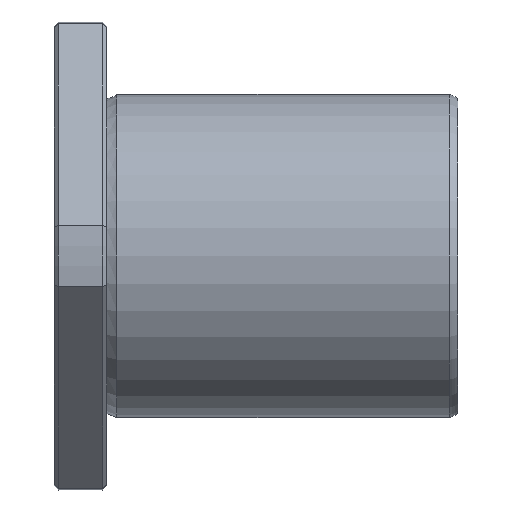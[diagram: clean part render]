
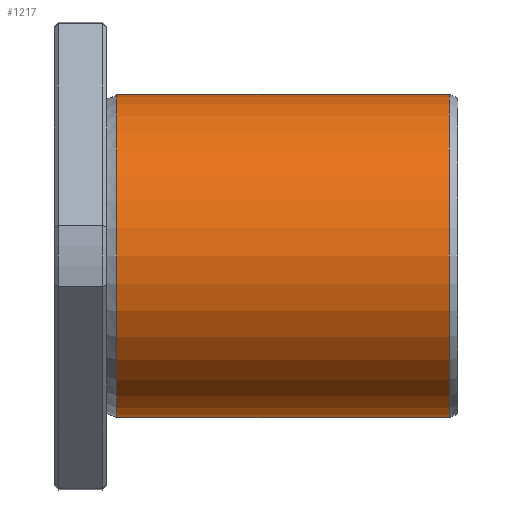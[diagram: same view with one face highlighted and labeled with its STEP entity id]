
A CAD part, front view. The second image highlights one B-rep face of the part: STEP entity #1217.
In plain terms, the highlighted cylindrical face has radius 40 mm (diameter 80 mm), a full revolution.
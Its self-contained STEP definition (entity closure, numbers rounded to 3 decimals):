
#1183=CARTESIAN_POINT('',(97.839,0.0,40.));
#1184=VERTEX_POINT('',#1183);
#1185=CARTESIAN_POINT('',(97.839,0.0,0.0));
#1186=DIRECTION('',(-1.0,0.0,0.0));
#1187=DIRECTION('',(0.0,0.0,1.0));
#1188=AXIS2_PLACEMENT_3D('',#1185,#1186,#1187);
#1189=CIRCLE('',#1188,40.);
#1190=EDGE_CURVE('',#1184,#1184,#1189,.T.);
#1198=CARTESIAN_POINT('',(56.692,0.0,0.0));
#1199=DIRECTION('',(-1.0,0.0,0.0));
#1200=DIRECTION('',(0.0,0.0,1.0));
#1201=AXIS2_PLACEMENT_3D('',#1198,#1199,#1200);
#1202=CYLINDRICAL_SURFACE('',#1201,40.);
#1203=CARTESIAN_POINT('',(15.546,0.0,40.));
#1204=VERTEX_POINT('',#1203);
#1205=CARTESIAN_POINT('',(15.546,0.0,0.0));
#1206=DIRECTION('',(-1.0,0.0,0.0));
#1207=DIRECTION('',(0.0,0.0,1.0));
#1208=AXIS2_PLACEMENT_3D('',#1205,#1206,#1207);
#1209=CIRCLE('',#1208,40.);
#1210=EDGE_CURVE('',#1204,#1204,#1209,.T.);
#1211=ORIENTED_EDGE('',*,*,#1210,.F.);
#1212=EDGE_LOOP('',(#1211));
#1213=FACE_OUTER_BOUND('',#1212,.T.);
#1214=ORIENTED_EDGE('',*,*,#1190,.T.);
#1215=EDGE_LOOP('',(#1214));
#1216=FACE_BOUND('',#1215,.T.);
#1217=ADVANCED_FACE('',(#1213,#1216),#1202,.T.);
